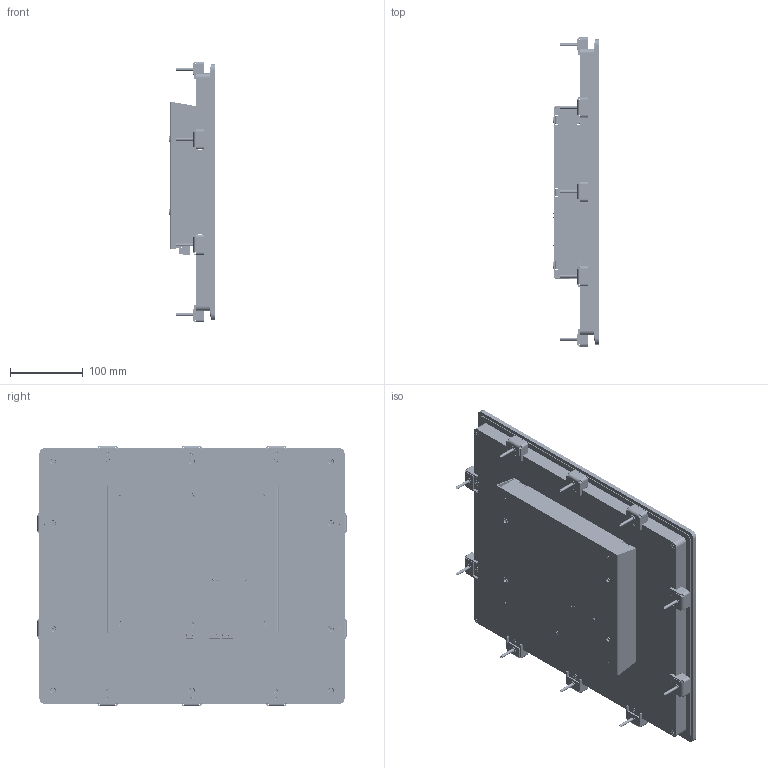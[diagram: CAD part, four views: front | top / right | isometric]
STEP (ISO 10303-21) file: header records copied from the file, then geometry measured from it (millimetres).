
FILE_DESCRIPTION(('STEP AP214'), '1');
FILE_NAME('NLcon-CED17', '', ('UNSPECIFIED'), ('UNSPECIFIED'), 'ASCON STEP Converter 1.6', 'ASCON Math Kernel', '');
FILE_SCHEMA(('AUTOMOTIVE_DESIGN { 1 0 10303 214 3 1 1}'));
Length unit declared in the file: millimetre
Assembly tree (2 placements, depth 2):
  (unnamed)
    (unnamed)
    (unnamed)
Bounding box: 63.4 x 426 x 359 mm (x, y, z)
Volume: 2419730 mm3; surface area: 905702.5 mm2
Topology: 12 solids, 12 shells, 10170 faces, 28630 edges, 18834 vertices
Faces by surface type: cylinder 5157, plane 4747, cone 123, torus 53, bspline 35, extrusion 31, sphere 24
Full cylindrical faces by diameter (mm): 1.1 x4, 1.4 x8, 3 x15, 3.18 x4, 3.3 x3, 3.6 x1, 3.95 x8, 4 x27, 4.75 x10, 5 x16, 5.5 x1, 5.6 x6, 6 x11, 6.5 x10, 6.8 x14, 9 x14
Entity records: 423943 total; most frequent: CARTESIAN_POINT 71769, DIRECTION 58264, ORIENTED_EDGE 56610, EDGE_CURVE 28305, AXIS2_PLACEMENT_3D 20576, VERTEX_POINT 18831, VECTOR 17112, LINE 17081
